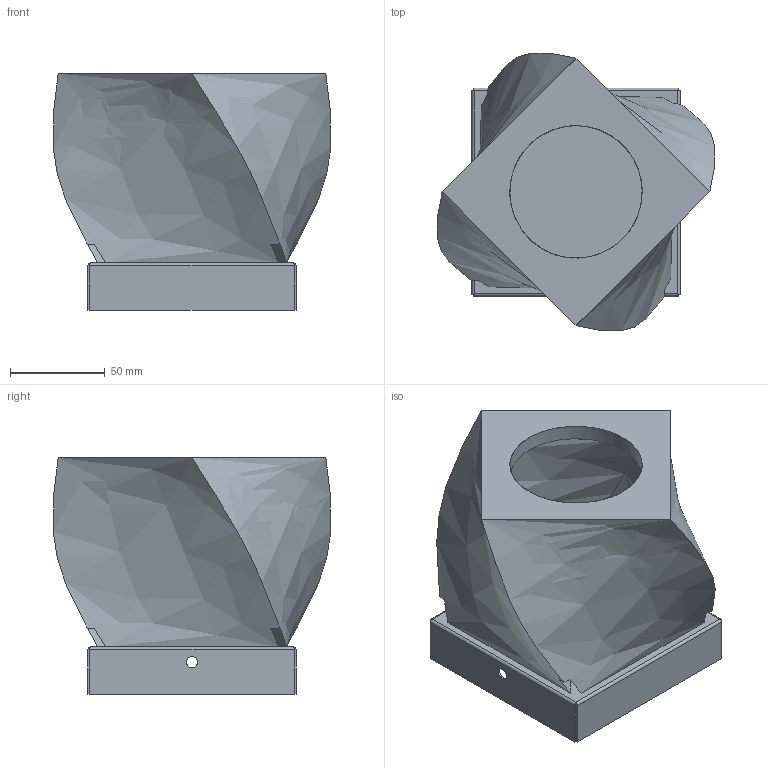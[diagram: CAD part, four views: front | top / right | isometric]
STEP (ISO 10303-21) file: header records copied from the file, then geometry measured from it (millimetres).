
FILE_DESCRIPTION( ( 'STEP AP203' ), '1' );
FILE_NAME( '//srvbf/BF Disegni/ARRIGHI FRANCESCA/AUREA/AUREA-Q-A Applique-Plafone 3ddddD.stp', '2020-10-16T06:23:14', ( ' ' ), ( ' ' ), 'XStep 1.0', ' ', ' ' );
FILE_SCHEMA( ( 'CONFIG_CONTROL_DESIGN) ( )' ) );
Length unit declared in the file: metre
Products named in the file (3): Assem1; 1; 2
Bounding box: 146.73 x 146.73 x 125 mm (x, y, z)
Volume: 731007 mm3; surface area: 274865 mm2
Topology: 4 solids, 4 shells, 146 faces, 362 edges, 228 vertices
Faces by surface type: plane 84, cylinder 30, extrusion 16, bspline 8, offset 8
Full cylindrical faces by diameter (mm): 5 x8, 6 x4, 70 x2
Entity records: 2636 total; most frequent: CARTESIAN_POINT 888, ORIENTED_EDGE 340, DIRECTION 288, EDGE_CURVE 170, VERTEX_POINT 110, AXIS2_PLACEMENT_3D 98, EDGE_LOOP 92, VECTOR 92
